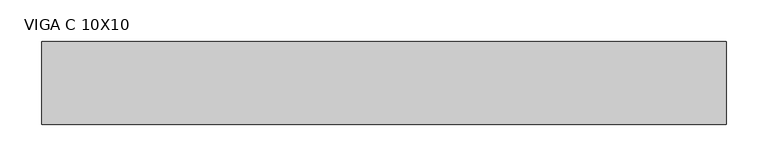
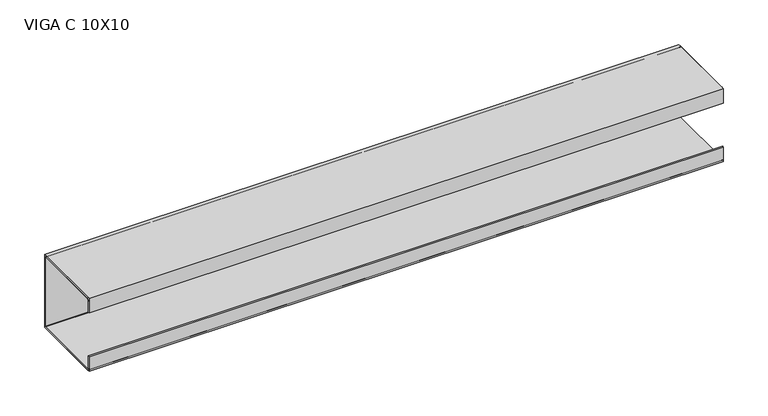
"""IFC4 building model written with IfcOpenShell, lengths in millimetres: beam geometry, VIGA PERFIL C AÇO : VIGA C 10X10."""

from ifc_helpers import new_model, si_unit, point, frame, frame_2d, origin, place, context, project, spatial, polyline, circle_curve, trimmed, segment, composite_curve, outline, extrude, source, transform, mapped, element, save


def viga_c_10x10_02f73f95(model_context):
    return source(origin(), model_context, "Body", "SweptSolid", [
        extrude(outline(polyline([(9.2, -50.0), (-90.8, -50.0), (-90.8, -30.0), (-88.9, -30.0), (-88.9, -48.1), (7.3, -48.1), (7.3, 48.1), (-88.9, 48.1), (-88.9, 30.0), (-90.8, 30.0), (-90.8, 50.0), (9.2, 50.0), (9.2, -50.0)])), frame((-419.0, 0.0, 0.0), z_axis=(1.0, 0.0, 0.0), x_axis=(0.0, 1.0, 0.0)), (0.0, 0.0, 1.0), 823.0),
        extrude(outline(composite_curve([segment(trimmed(circle_curve(frame_2d((5.4, -46.2)), 3.8), [point((9.2, -46.2))], [point((5.4, -50.0))], False, "CARTESIAN"), True, "CONTINUOUS"), segment(polyline([(5.4, -50.0), (-87.0, -50.0)]), True, "CONTINUOUS"), segment(trimmed(circle_curve(frame_2d((-87.0, -46.2)), 3.8), [point((-87.0, -50.0))], [point((-90.8, -46.2))], False, "CARTESIAN"), True, "CONTINUOUS"), segment(polyline([(-90.8, -46.2), (-90.8, -30.0), (-88.9, -30.0), (-88.9, -46.2)]), True, "CONTINUOUS"), segment(trimmed(circle_curve(frame_2d((-87.0, -46.2)), 1.9), [point((-88.9, -46.2))], [point((-87.0, -48.1))], True, "CARTESIAN"), True, "CONTINUOUS"), segment(polyline([(-87.0, -48.1), (5.4, -48.1)]), True, "CONTINUOUS"), segment(trimmed(circle_curve(frame_2d((5.4, -46.2)), 1.9), [point((5.4, -48.1))], [point((7.3, -46.2))], True, "CARTESIAN"), True, "CONTINUOUS"), segment(polyline([(7.3, -46.2), (7.3, 46.2)]), True, "CONTINUOUS"), segment(trimmed(circle_curve(frame_2d((5.4, 46.2)), 1.9), [point((7.3, 46.2))], [point((5.4, 48.1))], True, "CARTESIAN"), True, "CONTINUOUS"), segment(polyline([(5.4, 48.1), (-87.0, 48.1)]), True, "CONTINUOUS"), segment(trimmed(circle_curve(frame_2d((-87.0, 46.2)), 1.9), [point((-87.0, 48.1))], [point((-88.9, 46.2))], True, "CARTESIAN"), True, "CONTINUOUS"), segment(polyline([(-88.9, 46.2), (-88.9, 30.0), (-90.8, 30.0), (-90.8, 46.2)]), True, "CONTINUOUS"), segment(trimmed(circle_curve(frame_2d((-87.0, 46.2)), 3.8), [point((-90.8, 46.2))], [point((-87.0, 50.0))], False, "CARTESIAN"), True, "CONTINUOUS"), segment(polyline([(-87.0, 50.0), (5.4, 50.0)]), True, "CONTINUOUS"), segment(trimmed(circle_curve(frame_2d((5.4, 46.2)), 3.8), [point((5.4, 50.0))], [point((9.2, 46.2))], False, "CARTESIAN"), True, "CONTINUOUS"), segment(polyline([(9.2, 46.2), (9.2, -46.2)]), True, "CONTINUOUS")], self_intersect=False)), frame((-419.0, 0.0, 0.0), z_axis=(1.0, 0.0, 0.0), x_axis=(0.0, 1.0, 0.0)), (0.0, 0.0, 1.0), 823.0),
    ])


if __name__ == "__main__":
    model = new_model("IFC4")
    model_context = context("Model", 3, world=origin())
    ifc_project = project(units=[si_unit("LENGTHUNIT", "METRE", prefix="MILLI")], contexts=[model_context])
    site = spatial("IfcSite", under=ifc_project)
    building = spatial("IfcBuilding", under=site)
    placement = place(None, origin())
    viga_c_10x10_shape = viga_c_10x10_02f73f95(model_context)
    element("IfcBeam", 1, ObjectType="VIGA PERFIL C AÇO : VIGA C 10X10", at=placement, inside=building, context=model_context, shape_type="MappedRepresentation", body=[
        mapped(viga_c_10x10_shape, transform((0.0, 0.0, 0.0), x_axis=(1.0, 0.0, 0.0), y_axis=(0.0, 1.0, 0.0), z_axis=(0.0, 0.0, 1.0))),
    ])
    save(model, "model.ifc")
